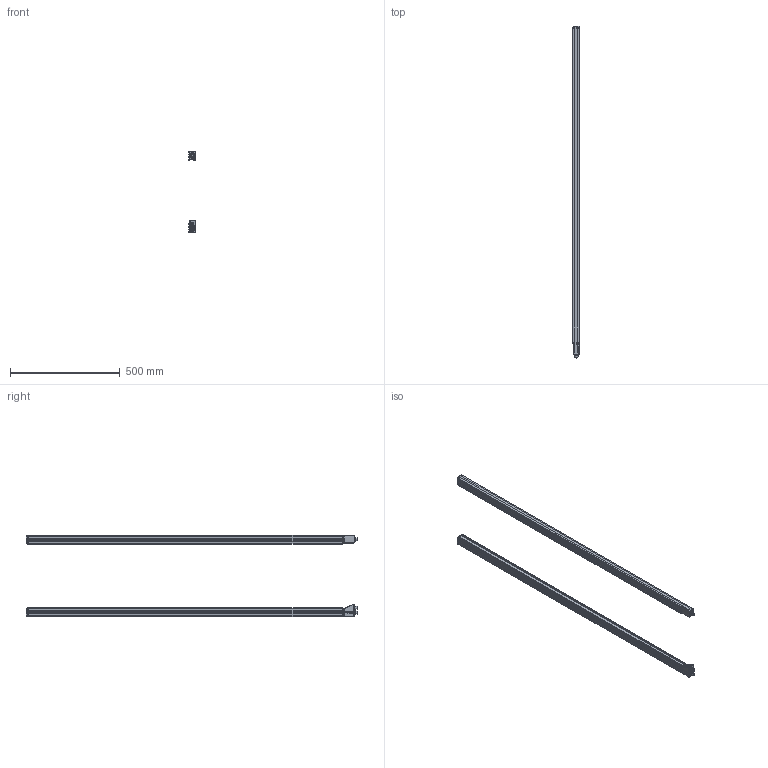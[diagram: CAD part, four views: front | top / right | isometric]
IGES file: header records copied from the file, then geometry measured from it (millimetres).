
Global section: file name: E:\sy\3DCAD_CML700_1440_A_EX.igs; native system: NX V8.5; preprocessor: SIEMENS PLM Software NX 8.5; date: 20161019.130238; units: millimetre
Bounding box: 30.65 x 1515.3 x 370.4 mm (x, y, z)
Surface area: 1175243.5 mm2 (no closed solid volume)
Topology: 0 solids, 0 shells, 1213 faces, 7388 edges, 7342 vertices
Faces by surface type: bspline 1213
